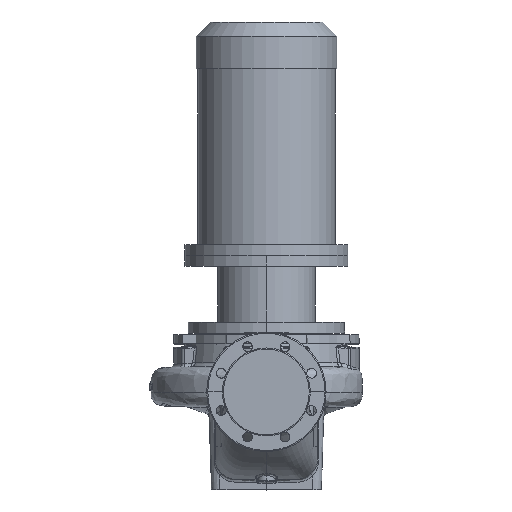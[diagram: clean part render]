
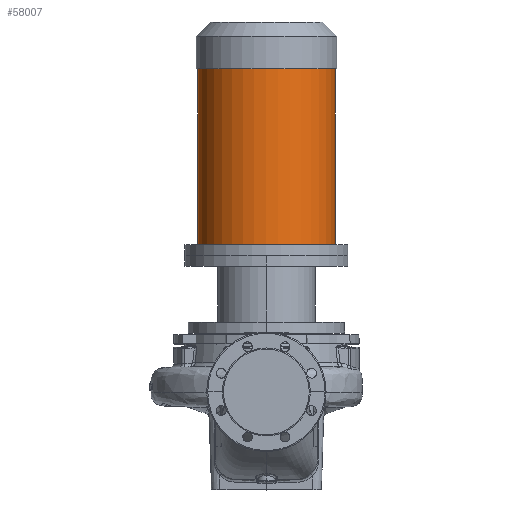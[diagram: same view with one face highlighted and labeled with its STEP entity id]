
A CAD part, top view. The second image highlights one B-rep face of the part: STEP entity #58007.
In plain terms, the highlighted cylindrical face has radius 126.5 mm (diameter 253 mm), a partial arc.
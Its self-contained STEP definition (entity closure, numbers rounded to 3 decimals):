
#360 = ORIENTED_EDGE ( 'NONE', *, *, #40094, .T. ) ;
#1875 = CARTESIAN_POINT ( 'NONE',  ( 0., 271.8, 0. ) ) ;
#2269 = AXIS2_PLACEMENT_3D ( 'NONE', #48648, #20516, #29929 ) ;
#6407 = DIRECTION ( 'NONE',  ( -1., 0., 0. ) ) ;
#6708 = DIRECTION ( 'NONE',  ( -1., 0., 0. ) ) ;
#7739 = CIRCLE ( 'NONE', #60621, 126.5 ) ;
#8200 = CARTESIAN_POINT ( 'NONE',  ( 126.5, 251.8, 0. ) ) ;
#14433 = CARTESIAN_POINT ( 'NONE',  ( -126.5, 271.8, 0. ) ) ;
#15427 = DIRECTION ( 'NONE',  ( 0., -1., 0. ) ) ;
#16143 = CARTESIAN_POINT ( 'NONE',  ( 0., 595.8, 0. ) ) ;
#18757 = CARTESIAN_POINT ( 'NONE',  ( 126.5, 595.8, 0. ) ) ;
#20516 = DIRECTION ( 'NONE',  ( 0., -1., 0. ) ) ;
#20554 = CYLINDRICAL_SURFACE ( 'NONE', #2269, 126.5 ) ;
#21811 = CARTESIAN_POINT ( 'NONE',  ( 126.5, 271.8, 0. ) ) ;
#22116 = VECTOR ( 'NONE', #25146, 1000. ) ;
#22398 = ORIENTED_EDGE ( 'NONE', *, *, #38063, .F. ) ;
#25146 = DIRECTION ( 'NONE',  ( 0., -1., 0. ) ) ;
#25626 = VERTEX_POINT ( 'NONE', #21811 ) ;
#27491 = VERTEX_POINT ( 'NONE', #18757 ) ;
#29077 = VERTEX_POINT ( 'NONE', #14433 ) ;
#29929 = DIRECTION ( 'NONE',  ( -1., 0., 0. ) ) ;
#30161 = LINE ( 'NONE', #43648, #22116 ) ;
#31213 = DIRECTION ( 'NONE',  ( 0., -1., 0. ) ) ;
#32043 = VECTOR ( 'NONE', #31213, 1000. ) ;
#35490 = ORIENTED_EDGE ( 'NONE', *, *, #40341, .F. ) ;
#36424 = CIRCLE ( 'NONE', #51175, 126.5 ) ;
#37179 = LINE ( 'NONE', #8200, #32043 ) ;
#38063 = EDGE_CURVE ( 'NONE', #27491, #25626, #37179, .T. ) ;
#39334 = DIRECTION ( 'NONE',  ( 0., -1., 0. ) ) ;
#40094 = EDGE_CURVE ( 'NONE', #27491, #41552, #36424, .T. ) ;
#40341 = EDGE_CURVE ( 'NONE', #25626, #29077, #7739, .T. ) ;
#40751 = CARTESIAN_POINT ( 'NONE',  ( -126.5, 595.8, 0. ) ) ;
#41552 = VERTEX_POINT ( 'NONE', #40751 ) ;
#43648 = CARTESIAN_POINT ( 'NONE',  ( -126.5, 251.8, 0. ) ) ;
#44771 = EDGE_CURVE ( 'NONE', #41552, #29077, #30161, .T. ) ;
#46354 = ORIENTED_EDGE ( 'NONE', *, *, #44771, .T. ) ;
#48648 = CARTESIAN_POINT ( 'NONE',  ( 0., 251.8, 0. ) ) ;
#49759 = EDGE_LOOP ( 'NONE', ( #22398, #360, #46354, #35490 ) ) ;
#51175 = AXIS2_PLACEMENT_3D ( 'NONE', #16143, #39334, #6708 ) ;
#58007 = ADVANCED_FACE ( 'NONE', ( #60943 ), #20554, .T. ) ;
#60621 = AXIS2_PLACEMENT_3D ( 'NONE', #1875, #15427, #6407 ) ;
#60943 = FACE_OUTER_BOUND ( 'NONE', #49759, .T. ) ;
